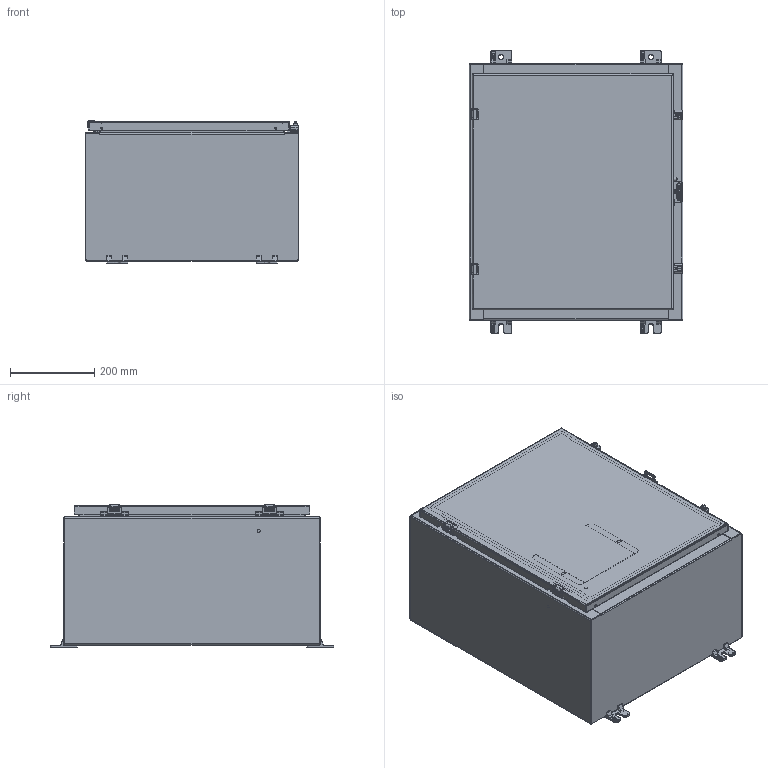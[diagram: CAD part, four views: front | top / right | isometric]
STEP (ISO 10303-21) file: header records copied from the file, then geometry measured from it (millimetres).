
FILE_DESCRIPTION((''),'2;1');
FILE_NAME('MODEL-309_ASM','2024-10-04T11:44:34',('richards'),('SAGINAW CONTROL & ENGINEERING'),'CREO PARAMETRIC BY PTC INC, 2021284','CREO PARAMETRIC BY PTC INC, 2021284','');
FILE_SCHEMA(('AUTOMOTIVE_DESIGN { 1 0 10303 214 1 1 1 1 }'));
Length unit declared in the file: inch
Products named in the file (35): MODEL-309-BDY; MODEL-309-TP; MODEL-309-BTM; MODEL-309-DR; 100837; 100882; 111541; MODEL-309-DOOR-GASKET; 126391; 126391_ASM; 126393; 102483; 101226; 101376; 102140; 115117; MODEL-309-DOOR-ASSY_ASM; 128630; 100059; 128630_ASM; 100921; 128631; 128631_ASM; 101653; 121452; 120132_BASE; 120132_CLAMP; 120132_SCREW; 120132_SPRING; 120132_ASM; 120133; SUBPANEL; 100904; SUBPANEL-SUBASSEMBLY_ASM; MODEL-309_ASM
Assembly tree (65 placements, depth 4):
  MODEL-309_ASM
    MODEL-309-BDY
    MODEL-309-TP
    MODEL-309-BTM
    MODEL-309-DOOR-ASSY_ASM
      MODEL-309-DR
      100837  x3
      100882  x2
      111541
      MODEL-309-DOOR-GASKET
      126391_ASM  x2
        126391
      126393  x2
      102483  x7
      101226  x2
      101376  x2
      102140  x2
      115117
    128630_ASM  x2
      128630
      100059
    100921  x4
    128631_ASM  x2
      128631
      100059
    100837
    101653  x4
    121452
    120132_ASM  x2
      120132_BASE
      120132_CLAMP
      120132_SCREW
      120132_SPRING
    100882  x3
    120133
    SUBPANEL-SUBASSEMBLY_ASM
      SUBPANEL
      100904  x4
Bounding box: 508 x 673.1 x 338.91 mm (x, y, z)
Volume: 3847161.9 mm3; surface area: 3562710.4 mm2
Topology: 65 solids, 65 shells, 4738 faces, 12123 edges, 7604 vertices
Faces by surface type: plane 1733, cylinder 1297, bspline 941, torus 526, cone 140, sphere 101
Entity records: 113587 total; most frequent: CARTESIAN_POINT 35811, ORIENTED_EDGE 11508, DIRECTION 11110, PRESENTATION_STYLE_ASSIGNMENT 5887, STYLED_ITEM 5887, CURVE_STYLE 5754, EDGE_CURVE 5754, AXIS2_PLACEMENT_3D 4135
